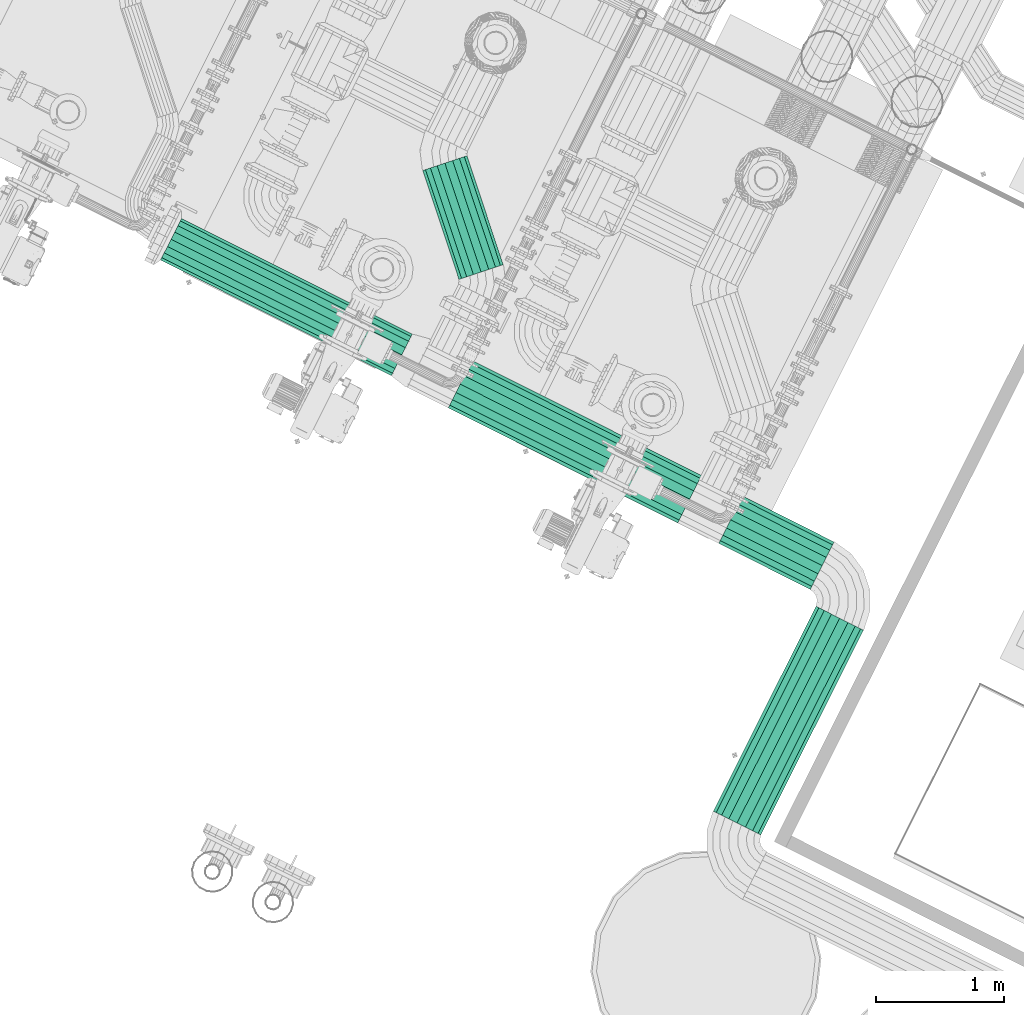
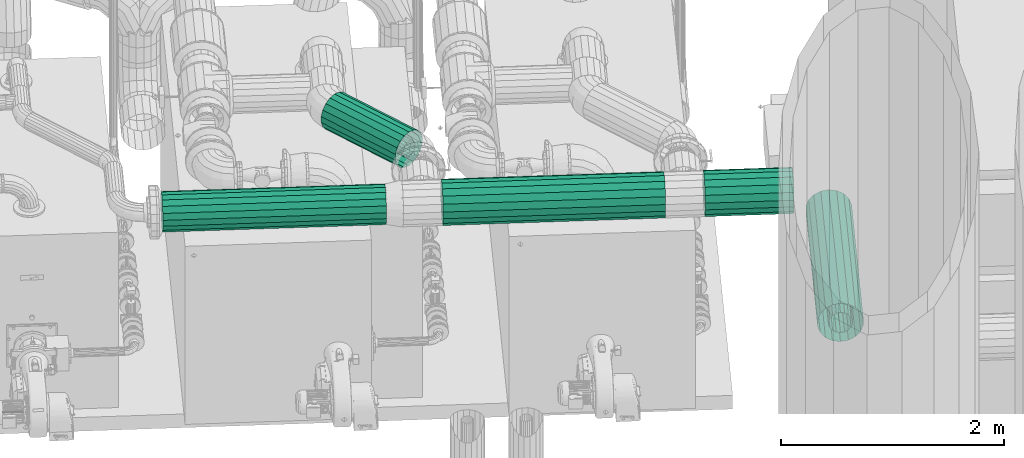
# One storey, part 5 of 206: 5 flow segments.
"""IFC2X3 building model written with IfcOpenShell, lengths in metres."""

from ifc_helpers import new_model, si_unit, derived_unit, direction, frame, origin, place, context, subcontext, project, spatial, face_set, surface_model, source, transform, mapped, material, type_object, type_shapes, element, save


model = new_model("IFC2X3")

# Units and contexts
model_context = context("Model", 3, precision=5.2338327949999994e-05, world=origin(), true_north=direction((0.0, 1.0)))
body_context = subcontext(model_context, "Body", "Model", "MODEL_VIEW")
ifc_project = project(units=[si_unit("LENGTHUNIT", "METRE"), si_unit("AREAUNIT", "SQUARE_METRE"), si_unit("VOLUMEUNIT", "CUBIC_METRE"), si_unit("MASSUNIT", "GRAM", prefix="KILO"), si_unit("PLANEANGLEUNIT", "RADIAN"), derived_unit("THERMALTRANSMITTANCEUNIT", [(si_unit("MASSUNIT", "GRAM", prefix="KILO"), 1), (si_unit("THERMODYNAMICTEMPERATUREUNIT", "KELVIN"), -1), (si_unit("TIMEUNIT", "SECOND"), -3)])], contexts=[model_context])

# Site, building, storey
site_placement = place(None, frame((0.0, 0.0, 0.0), z_axis=(0.0, 0.0, 1.0), x_axis=(0.8939966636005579, -0.4480736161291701, 0.0)))
site = spatial("IfcSite", under=ifc_project, at=site_placement, Name="Default", CompositionType="ELEMENT")
building_placement = place(site_placement, origin())
building = spatial("IfcBuilding", under=site, at=building_placement, CompositionType="ELEMENT")
storey_placement = place(building_placement, origin())
storey = spatial("IfcBuildingStorey", under=building, at=storey_placement, Name="Erdgeschoss", CompositionType="ELEMENT", Elevation=0.0)

# Flow segments
ifc_material = material(Name="IfcSurfaceStyle #9317")
distribution_element_type_1 = type_object("IfcDistributionElementType", Name="Stahlrohr nach DIN 2448 342082:Stahlrohr nach DIN 2448 342082", material=ifc_material)
shared_shape_1 = source(origin(), body_context, "Body", "SurfaceModel", [
    surface_model("IfcFaceBasedSurfaceModel", [(24.241894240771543, 6.354033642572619, 2.43815), (24.221543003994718, 6.33368240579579, 2.433075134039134), (24.85297490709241, 5.7022505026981, 2.4330751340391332), (24.873326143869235, 5.722601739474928, 2.438149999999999), (24.20364642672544, 6.315785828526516, 2.4184626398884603), (24.835078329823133, 5.684353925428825, 2.4184626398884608), (24.190363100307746, 6.302502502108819, 2.396075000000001), (24.821795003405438, 5.671070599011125, 2.3960750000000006), (24.183295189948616, 6.295434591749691, 2.368612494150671), (24.814727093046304, 5.6640026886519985, 2.36861249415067), (24.18329518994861, 6.295434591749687, 2.3393875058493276), (24.814727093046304, 5.6640026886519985, 2.339387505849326), (24.190363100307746, 6.302502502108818, 2.3119249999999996), (24.821795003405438, 5.671070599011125, 2.311925), (24.203646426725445, 6.315785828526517, 2.2895373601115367), (24.835078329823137, 5.684353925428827, 2.2895373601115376), (24.221543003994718, 6.33368240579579, 2.2749248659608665), (24.852974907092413, 5.7022505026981, 2.274924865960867), (24.241894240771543, 6.354033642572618, 2.26985), (24.873326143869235, 5.722601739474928, 2.26985), (24.262245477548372, 6.374384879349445, 2.2749248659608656), (24.893677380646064, 5.742952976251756, 2.2749248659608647), (24.28014205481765, 6.392281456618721, 2.289537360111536), (24.91157395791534, 5.760849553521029, 2.2895373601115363), (24.29342538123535, 6.405564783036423, 2.3119249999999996), (24.92485728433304, 5.774132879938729, 2.311925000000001), (24.30049329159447, 6.412632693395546, 2.339387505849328), (24.931925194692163, 5.781200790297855, 2.33938750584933), (24.300493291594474, 6.412632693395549, 2.368612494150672), (24.931925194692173, 5.781200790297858, 2.368612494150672), (24.293425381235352, 6.4055647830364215, 2.3960749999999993), (24.92485728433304, 5.77413287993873, 2.396074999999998), (24.28014205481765, 6.39228145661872, 2.4184626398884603), (24.91157395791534, 5.760849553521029, 2.4184626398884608), (24.262245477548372, 6.374384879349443, 2.433075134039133), (24.893677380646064, 5.742952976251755, 2.4330751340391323), (24.241894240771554, 6.354033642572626, 2.5381500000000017), (24.19735852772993, 6.309497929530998, 2.527044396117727), (24.828790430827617, 5.678066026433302, 2.5270443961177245), (24.87332614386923, 5.722601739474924, 2.5381499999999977), (24.15819447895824, 6.27033388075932, 2.495067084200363), (24.78962638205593, 5.638901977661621, 2.4950670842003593), (24.129125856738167, 6.241265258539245, 2.446075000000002), (24.760557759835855, 5.609833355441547, 2.4460750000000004), (24.113658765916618, 6.2257981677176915, 2.3859773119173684), (24.745090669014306, 5.594366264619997, 2.385977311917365), (24.113658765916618, 6.225798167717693, 2.3220226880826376), (24.745090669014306, 5.594366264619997, 2.3220226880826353), (24.129125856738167, 6.241265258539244, 2.261925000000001), (24.760557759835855, 5.609833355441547, 2.261925), (24.15819447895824, 6.270333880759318, 2.2129329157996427), (24.78962638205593, 5.638901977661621, 2.21293291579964), (24.19735852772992, 6.309497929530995, 2.180955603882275), (24.828790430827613, 5.678066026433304, 2.180955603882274), (24.241894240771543, 6.35403364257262, 2.16985), (24.873326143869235, 5.7226017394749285, 2.1698500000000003), (24.286429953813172, 6.398569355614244, 2.180955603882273), (24.91786185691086, 5.767137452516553, 2.1809556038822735), (24.325594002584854, 6.437733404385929, 2.2129329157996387), (24.957025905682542, 5.806301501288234, 2.2129329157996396), (24.354662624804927, 6.466802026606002, 2.261924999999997), (24.986094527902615, 5.835370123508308, 2.2619249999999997), (24.370129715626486, 6.482269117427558, 2.322022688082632), (25.001561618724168, 5.85083721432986, 2.3220226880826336), (24.370129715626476, 6.482269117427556, 2.385977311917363), (25.001561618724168, 5.850837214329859, 2.3859773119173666), (24.354662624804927, 6.466802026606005, 2.446074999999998), (24.986094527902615, 5.835370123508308, 2.446075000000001), (24.325594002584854, 6.437733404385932, 2.495067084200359), (24.957025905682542, 5.806301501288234, 2.495067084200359), (24.286429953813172, 6.398569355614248, 2.527044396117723), (24.91786185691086, 5.767137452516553, 2.527044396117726)], [face_set([[[0, 1, 2, 3]], [[1, 4, 5, 2]], [[4, 6, 7, 5]], [[6, 8, 9, 7]], [[8, 10, 11, 9]], [[10, 12, 13, 11]], [[12, 14, 15, 13]], [[14, 16, 17, 15]], [[16, 18, 19, 17]], [[18, 20, 21, 19]], [[20, 22, 23, 21]], [[22, 24, 25, 23]], [[24, 26, 27, 25]], [[26, 28, 29, 27]], [[28, 30, 31, 29]], [[30, 32, 33, 31]], [[32, 34, 35, 33]], [[34, 0, 3, 35]], [[36, 37, 38, 39]], [[37, 40, 41, 38]], [[40, 42, 43, 41]], [[42, 44, 45, 43]], [[44, 46, 47, 45]], [[46, 48, 49, 47]], [[48, 50, 51, 49]], [[50, 52, 53, 51]], [[52, 54, 55, 53]], [[54, 56, 57, 55]], [[56, 58, 59, 57]], [[58, 60, 61, 59]], [[60, 62, 63, 61]], [[62, 64, 65, 63]], [[64, 66, 67, 65]], [[66, 68, 69, 67]], [[68, 70, 71, 69]], [[70, 36, 39, 71]]])]),
])
type_shapes(distribution_element_type_1, [shared_shape_1])
flow_segment_1_placement = place(storey_placement, origin())
element("IfcFlowSegment", 1, at=flow_segment_1_placement, inside=storey, type_object=distribution_element_type_1, material=ifc_material, Name="Stahlrohr nach DIN 2448", ObjectType="Stahlrohr nach DIN 2448", context=body_context, shape_type="MappedRepresentation", body=[
    mapped(shared_shape_1, transform((0.0, 0.0, 0.0), scale=1.0)),
])
distribution_element_type_2 = type_object("IfcDistributionElementType", Name="Stahlrohr nach DIN 2448 342346:Stahlrohr nach DIN 2448 342346", material=ifc_material)
shared_shape_2 = source(origin(), body_context, "Body", "SurfaceModel", [
    surface_model("IfcFaceBasedSurfaceModel", [(28.576548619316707, 4.5643129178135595, 2.24445), (28.614016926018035, 4.5643129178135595, 2.2510566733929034), (28.614016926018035, 2.7818683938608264, 2.251056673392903), (28.576548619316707, 2.7818683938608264, 2.2444499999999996), (28.646966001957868, 4.5643129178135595, 2.270079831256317), (28.646966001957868, 2.7818683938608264, 2.270079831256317), (28.671421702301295, 4.5643129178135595, 2.2992250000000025), (28.671421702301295, 2.7818683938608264, 2.299225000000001), (28.684434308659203, 4.5643129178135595, 2.334976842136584), (28.684434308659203, 2.7818683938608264, 2.3349768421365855), (28.6844343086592, 4.5643129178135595, 2.373023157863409), (28.6844343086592, 2.7818683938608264, 2.373023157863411), (28.671421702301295, 4.5643129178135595, 2.4087750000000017), (28.671421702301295, 2.7818683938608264, 2.4087750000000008), (28.64696600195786, 4.5643129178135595, 2.437920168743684), (28.64696600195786, 2.7818683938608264, 2.4379201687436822), (28.61401692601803, 4.5643129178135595, 2.4569433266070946), (28.61401692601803, 2.7818683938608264, 2.4569433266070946), (28.576548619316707, 4.5643129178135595, 2.4635500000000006), (28.576548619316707, 2.7818683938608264, 2.4635499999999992), (28.539080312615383, 4.5643129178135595, 2.4569433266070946), (28.539080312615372, 2.7818683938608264, 2.456943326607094), (28.506131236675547, 4.5643129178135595, 2.4379201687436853), (28.506131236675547, 2.7818683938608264, 2.437920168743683), (28.48167553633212, 4.5643129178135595, 2.4087749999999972), (28.48167553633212, 2.7818683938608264, 2.4087749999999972), (28.468662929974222, 4.5643129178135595, 2.373023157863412), (28.468662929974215, 2.7818683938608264, 2.373023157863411), (28.468662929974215, 4.5643129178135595, 2.3349768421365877), (28.468662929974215, 2.7818683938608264, 2.3349768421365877), (28.481675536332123, 4.5643129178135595, 2.299225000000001), (28.481675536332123, 2.7818683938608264, 2.299225), (28.50613123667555, 4.5643129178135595, 2.270079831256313), (28.50613123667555, 2.7818683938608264, 2.270079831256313), (28.539080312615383, 4.5643129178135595, 2.2510566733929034), (28.539080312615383, 2.7818683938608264, 2.2510566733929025), (28.57654861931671, 4.5643129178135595, 2.1444499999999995), (28.6482189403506, 4.5643129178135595, 2.157087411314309), (28.648218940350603, 2.7818683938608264, 2.1570874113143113), (28.576548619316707, 2.7818683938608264, 2.1444500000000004), (28.711244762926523, 4.5643129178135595, 2.193475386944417), (28.71124476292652, 2.7818683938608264, 2.193475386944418), (28.75802424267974, 4.5643129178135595, 2.2492249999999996), (28.75802424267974, 2.7818683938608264, 2.249224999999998), (28.78291508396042, 4.5643129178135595, 2.3176120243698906), (28.78291508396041, 2.7818683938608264, 2.3176120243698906), (28.782915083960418, 4.5643129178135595, 2.390387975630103), (28.78291508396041, 2.7818683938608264, 2.3903879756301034), (28.75802424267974, 4.5643129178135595, 2.458774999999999), (28.75802424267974, 2.7818683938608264, 2.458775), (28.71124476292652, 4.5643129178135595, 2.514524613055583), (28.711244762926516, 2.7818683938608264, 2.5145246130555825), (28.6482189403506, 4.5643129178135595, 2.5509125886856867), (28.648218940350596, 2.7818683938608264, 2.5509125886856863), (28.576548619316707, 4.5643129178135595, 2.563549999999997), (28.576548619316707, 2.7818683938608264, 2.563549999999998), (28.504878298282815, 4.5643129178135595, 2.550912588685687), (28.504878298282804, 2.7818683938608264, 2.5509125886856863), (28.44185247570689, 4.5643129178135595, 2.5145246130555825), (28.44185247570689, 2.7818683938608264, 2.51452461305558), (28.39507299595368, 4.5643129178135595, 2.4587750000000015), (28.395072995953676, 2.7818683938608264, 2.4587750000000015), (28.370182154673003, 4.5643129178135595, 2.390387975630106), (28.370182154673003, 2.7818683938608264, 2.3903879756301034), (28.370182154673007, 4.5643129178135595, 2.317612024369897), (28.370182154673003, 2.7818683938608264, 2.3176120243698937), (28.39507299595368, 4.5643129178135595, 2.249225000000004), (28.39507299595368, 2.7818683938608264, 2.2492250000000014), (28.4418524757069, 4.5643129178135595, 2.193475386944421), (28.441852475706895, 2.7818683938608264, 2.1934753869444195), (28.50487829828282, 4.5643129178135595, 2.157087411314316), (28.504878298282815, 2.7818683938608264, 2.1570874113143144)], [face_set([[[0, 1, 2, 3]], [[1, 4, 5, 2]], [[4, 6, 7, 5]], [[6, 8, 9, 7]], [[8, 10, 11, 9]], [[10, 12, 13, 11]], [[12, 14, 15, 13]], [[14, 16, 17, 15]], [[16, 18, 19, 17]], [[18, 20, 21, 19]], [[20, 22, 23, 21]], [[22, 24, 25, 23]], [[24, 26, 27, 25]], [[26, 28, 29, 27]], [[28, 30, 31, 29]], [[30, 32, 33, 31]], [[32, 34, 35, 33]], [[34, 0, 3, 35]], [[36, 37, 38, 39]], [[37, 40, 41, 38]], [[40, 42, 43, 41]], [[42, 44, 45, 43]], [[44, 46, 47, 45]], [[46, 48, 49, 47]], [[48, 50, 51, 49]], [[50, 52, 53, 51]], [[52, 54, 55, 53]], [[54, 56, 57, 55]], [[56, 58, 59, 57]], [[58, 60, 61, 59]], [[60, 62, 63, 61]], [[62, 64, 65, 63]], [[64, 66, 67, 65]], [[66, 68, 69, 67]], [[68, 70, 71, 69]], [[70, 36, 39, 71]]])]),
])
type_shapes(distribution_element_type_2, [shared_shape_2])
flow_segment_2_placement = place(storey_placement, origin())
element("IfcFlowSegment", 2, at=flow_segment_2_placement, inside=storey, type_object=distribution_element_type_2, material=ifc_material, Name="Stahlrohr nach DIN 2448", ObjectType="Stahlrohr nach DIN 2448", context=body_context, shape_type="MappedRepresentation", body=[
    mapped(shared_shape_2, transform((0.0, 0.0, 0.0), scale=1.0)),
])
distribution_element_type_3 = type_object("IfcDistributionElementType", Name="Stahlrohr nach DIN 2448 343523:Stahlrohr nach DIN 2448 343523", material=ifc_material)
shared_shape_3 = source(origin(), body_context, "Body", "SurfaceModel", [
    surface_model("IfcFaceBasedSurfaceModel", [(25.11839869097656, 4.869312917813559, 2.24445), (25.11839869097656, 4.906781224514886, 2.2510566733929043), (27.11740023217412, 4.906781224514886, 2.2510566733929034), (27.11740023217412, 4.869312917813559, 2.2444499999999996), (25.11839869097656, 4.93973030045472, 2.270079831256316), (27.11740023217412, 4.939730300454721, 2.2700798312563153), (25.11839869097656, 4.964186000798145, 2.2992250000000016), (27.11740023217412, 4.964186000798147, 2.2992250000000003), (25.11839869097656, 4.977198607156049, 2.334976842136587), (27.11740023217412, 4.977198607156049, 2.334976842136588), (25.11839869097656, 4.977198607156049, 2.3730231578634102), (27.11740023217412, 4.97719860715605, 2.3730231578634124), (25.11839869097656, 4.964186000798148, 2.408775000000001), (27.11740023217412, 4.964186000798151, 2.4087750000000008), (25.11839869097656, 4.939730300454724, 2.4379201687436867), (27.11740023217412, 4.939730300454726, 2.4379201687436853), (25.11839869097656, 4.9067812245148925, 2.4569433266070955), (27.11740023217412, 4.906781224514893, 2.4569433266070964), (25.11839869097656, 4.869312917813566, 2.4635500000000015), (27.11740023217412, 4.869312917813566, 2.4635500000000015), (25.11839869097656, 4.831844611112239, 2.4569433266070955), (27.11740023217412, 4.831844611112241, 2.4569433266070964), (25.11839869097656, 4.798895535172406, 2.437920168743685), (27.11740023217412, 4.798895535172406, 2.437920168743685), (25.11839869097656, 4.77443983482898, 2.408775), (27.11740023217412, 4.77443983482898, 2.4087750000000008), (25.11839869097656, 4.761427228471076, 2.373023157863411), (27.11740023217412, 4.761427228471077, 2.3730231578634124), (25.11839869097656, 4.761427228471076, 2.3349768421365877), (27.11740023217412, 4.761427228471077, 2.334976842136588), (25.11839869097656, 4.774439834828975, 2.2992250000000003), (27.11740023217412, 4.774439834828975, 2.299225), (25.11839869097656, 4.7988955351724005, 2.2700798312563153), (27.11740023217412, 4.7988955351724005, 2.2700798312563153), (25.11839869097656, 4.831844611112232, 2.2510566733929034), (27.11740023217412, 4.831844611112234, 2.251056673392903), (25.11839869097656, 4.869312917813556, 2.144449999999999), (25.11839869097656, 4.940983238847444, 2.1570874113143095), (27.11740023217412, 4.9409832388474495, 2.1570874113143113), (27.11740023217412, 4.869312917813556, 2.14445), (25.11839869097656, 5.00400906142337, 2.193475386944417), (27.11740023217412, 5.004009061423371, 2.193475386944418), (25.11839869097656, 5.050788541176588, 2.2492250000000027), (27.11740023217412, 5.050788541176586, 2.249225), (25.11839869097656, 5.07567938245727, 2.317612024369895), (27.11740023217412, 5.07567938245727, 2.3176120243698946), (25.11839869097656, 5.07567938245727, 2.3903879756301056), (27.11740023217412, 5.075679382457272, 2.3903879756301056), (25.11839869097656, 5.050788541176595, 2.458775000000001), (27.11740023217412, 5.050788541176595, 2.4587750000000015), (25.11839869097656, 5.004009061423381, 2.5145246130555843), (27.11740023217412, 5.004009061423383, 2.514524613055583), (25.11839869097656, 4.940983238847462, 2.550912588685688), (27.11740023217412, 4.940983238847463, 2.550912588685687), (25.11839869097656, 4.869312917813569, 2.5635499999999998), (27.11740023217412, 4.869312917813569, 2.563550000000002), (25.11839869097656, 4.797642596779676, 2.5509125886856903), (27.11740023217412, 4.797642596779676, 2.550912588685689), (25.11839869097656, 4.7346167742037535, 2.5145246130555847), (27.11740023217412, 4.734616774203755, 2.5145246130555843), (25.11839869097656, 4.687837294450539, 2.4587749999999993), (27.11740023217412, 4.6878372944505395, 2.458775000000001), (25.11839869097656, 4.662946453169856, 2.390387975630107), (27.11740023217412, 4.662946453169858, 2.390387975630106), (25.11839869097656, 4.662946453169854, 2.317612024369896), (27.11740023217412, 4.662946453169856, 2.3176120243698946), (25.11839869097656, 4.6878372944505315, 2.249225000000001), (27.11740023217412, 4.687837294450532, 2.2492249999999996), (25.11839869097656, 4.734616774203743, 2.1934753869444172), (27.11740023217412, 4.734616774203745, 2.1934753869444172), (25.11839869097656, 4.797642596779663, 2.1570874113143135), (27.11740023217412, 4.797642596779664, 2.1570874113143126)], [face_set([[[0, 1, 2, 3]], [[1, 4, 5, 2]], [[4, 6, 7, 5]], [[6, 8, 9, 7]], [[8, 10, 11, 9]], [[10, 12, 13, 11]], [[12, 14, 15, 13]], [[14, 16, 17, 15]], [[16, 18, 19, 17]], [[18, 20, 21, 19]], [[20, 22, 23, 21]], [[22, 24, 25, 23]], [[24, 26, 27, 25]], [[26, 28, 29, 27]], [[28, 30, 31, 29]], [[30, 32, 33, 31]], [[32, 34, 35, 33]], [[34, 0, 3, 35]], [[36, 37, 38, 39]], [[37, 40, 41, 38]], [[40, 42, 43, 41]], [[42, 44, 45, 43]], [[44, 46, 47, 45]], [[46, 48, 49, 47]], [[48, 50, 51, 49]], [[50, 52, 53, 51]], [[52, 54, 55, 53]], [[54, 56, 57, 55]], [[56, 58, 59, 57]], [[58, 60, 61, 59]], [[60, 62, 63, 61]], [[62, 64, 65, 63]], [[64, 66, 67, 65]], [[66, 68, 69, 67]], [[68, 70, 71, 69]], [[70, 36, 39, 71]]])]),
])
type_shapes(distribution_element_type_3, [shared_shape_3])
flow_segment_3_placement = place(storey_placement, origin())
element("IfcFlowSegment", 3, at=flow_segment_3_placement, inside=storey, type_object=distribution_element_type_3, material=ifc_material, Name="Stahlrohr nach DIN 2448", ObjectType="Stahlrohr nach DIN 2448", context=body_context, shape_type="MappedRepresentation", body=[
    mapped(shared_shape_3, transform((0.0, 0.0, 0.0), scale=1.0)),
])
distribution_element_type_4 = type_object("IfcDistributionElementType", Name="Stahlrohr nach DIN 2448 344108:Stahlrohr nach DIN 2448 344108", material=ifc_material)
shared_shape_4 = source(origin(), body_context, "Body", "SurfaceModel", [
    surface_model("IfcFaceBasedSurfaceModel", [(27.47340023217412, 4.869312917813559, 2.463549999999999), (27.47340023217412, 4.831844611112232, 2.4569433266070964), (28.271548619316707, 4.831844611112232, 2.4569433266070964), (28.271548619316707, 4.869312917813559, 2.463549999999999), (27.47340023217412, 4.7988955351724, 2.4379201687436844), (28.271548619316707, 4.798895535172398, 2.4379201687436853), (27.47340023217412, 4.774439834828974, 2.4087750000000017), (28.271548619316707, 4.774439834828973, 2.408775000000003), (27.47340023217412, 4.761427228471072, 2.373023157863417), (28.271548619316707, 4.761427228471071, 2.373023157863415), (27.47340023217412, 4.761427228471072, 2.334976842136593), (28.271548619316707, 4.761427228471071, 2.3349768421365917), (27.47340023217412, 4.774439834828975, 2.299225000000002), (28.271548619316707, 4.774439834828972, 2.299225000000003), (27.47340023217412, 4.7988955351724, 2.270079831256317), (28.271548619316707, 4.798895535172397, 2.270079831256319), (27.47340023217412, 4.831844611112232, 2.251056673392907), (28.271548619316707, 4.831844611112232, 2.2510566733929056), (27.47340023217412, 4.869312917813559, 2.244449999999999), (28.271548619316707, 4.8693129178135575, 2.2444499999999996), (27.47340023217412, 4.906781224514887, 2.2510566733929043), (28.271548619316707, 4.906781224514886, 2.2510566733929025), (27.47340023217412, 4.939730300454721, 2.2700798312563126), (28.271548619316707, 4.93973030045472, 2.270079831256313), (27.47340023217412, 4.964186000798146, 2.299224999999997), (28.271548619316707, 4.9641860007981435, 2.299224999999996), (27.47340023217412, 4.977198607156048, 2.3349768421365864), (28.271548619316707, 4.977198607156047, 2.334976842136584), (27.47340023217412, 4.977198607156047, 2.373023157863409), (28.271548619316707, 4.977198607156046, 2.3730231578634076), (27.47340023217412, 4.964186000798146, 2.4087749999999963), (28.271548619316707, 4.964186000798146, 2.408774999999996), (27.47340023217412, 4.939730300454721, 2.437920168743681), (28.271548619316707, 4.939730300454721, 2.4379201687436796), (27.47340023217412, 4.906781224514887, 2.4569433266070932), (28.271548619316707, 4.906781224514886, 2.4569433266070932), (27.47340023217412, 4.869312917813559, 2.563549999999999), (27.47340023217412, 4.797642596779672, 2.550912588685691), (28.271548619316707, 4.797642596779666, 2.550912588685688), (28.271548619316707, 4.869312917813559, 2.5635499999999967), (27.47340023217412, 4.734616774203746, 2.514524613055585), (28.271548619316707, 4.734616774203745, 2.5145246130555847), (27.47340023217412, 4.68783729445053, 2.4587750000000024), (28.271548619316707, 4.687837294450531, 2.458775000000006), (27.47340023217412, 4.66294645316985, 2.390387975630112), (28.271548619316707, 4.66294645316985, 2.390387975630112), (27.47340023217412, 4.66294645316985, 2.317612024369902), (28.271548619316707, 4.66294645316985, 2.3176120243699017), (27.47340023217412, 4.68783729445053, 2.2492250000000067), (28.271548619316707, 4.687837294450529, 2.2492250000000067), (27.47340023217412, 4.734616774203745, 2.193475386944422), (28.271548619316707, 4.734616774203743, 2.1934753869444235), (27.47340023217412, 4.797642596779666, 2.1570874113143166), (28.271548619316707, 4.7976425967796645, 2.157087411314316), (27.47340023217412, 4.869312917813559, 2.1444500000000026), (28.271548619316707, 4.8693129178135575, 2.1444500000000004), (27.47340023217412, 4.940983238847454, 2.15708741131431), (28.271548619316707, 4.940983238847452, 2.15708741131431), (27.47340023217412, 5.004009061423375, 2.193475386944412), (28.271548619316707, 5.004009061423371, 2.1934753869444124), (27.47340023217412, 5.05078854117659, 2.2492249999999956), (28.271548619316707, 5.050788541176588, 2.2492249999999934), (27.47340023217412, 5.075679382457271, 2.317612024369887), (28.271548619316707, 5.075679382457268, 2.317612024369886), (27.47340023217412, 5.07567938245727, 2.390387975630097), (28.271548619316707, 5.075679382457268, 2.3903879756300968), (27.47340023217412, 5.0507885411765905, 2.458774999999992), (28.271548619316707, 5.0507885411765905, 2.458774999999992), (27.47340023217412, 5.004009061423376, 2.5145246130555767), (28.271548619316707, 5.004009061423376, 2.5145246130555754), (27.47340023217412, 4.940983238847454, 2.550912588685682), (28.271548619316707, 4.940983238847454, 2.5509125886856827)], [face_set([[[0, 1, 2, 3]], [[1, 4, 5, 2]], [[4, 6, 7, 5]], [[6, 8, 9, 7]], [[8, 10, 11, 9]], [[10, 12, 13, 11]], [[12, 14, 15, 13]], [[14, 16, 17, 15]], [[16, 18, 19, 17]], [[18, 20, 21, 19]], [[20, 22, 23, 21]], [[22, 24, 25, 23]], [[24, 26, 27, 25]], [[26, 28, 29, 27]], [[28, 30, 31, 29]], [[30, 32, 33, 31]], [[32, 34, 35, 33]], [[34, 0, 3, 35]], [[36, 37, 38, 39]], [[37, 40, 41, 38]], [[40, 42, 43, 41]], [[42, 44, 45, 43]], [[44, 46, 47, 45]], [[46, 48, 49, 47]], [[48, 50, 51, 49]], [[50, 52, 53, 51]], [[52, 54, 55, 53]], [[54, 56, 57, 55]], [[56, 58, 59, 57]], [[58, 60, 61, 59]], [[60, 62, 63, 61]], [[62, 64, 65, 63]], [[64, 66, 67, 65]], [[66, 68, 69, 67]], [[68, 70, 71, 69]], [[70, 36, 39, 71]]])]),
])
type_shapes(distribution_element_type_4, [shared_shape_4])
flow_segment_4_placement = place(storey_placement, origin())
element("IfcFlowSegment", 4, at=flow_segment_4_placement, inside=storey, type_object=distribution_element_type_4, material=ifc_material, Name="Stahlrohr nach DIN 2448", ObjectType="Stahlrohr nach DIN 2448", context=body_context, shape_type="MappedRepresentation", body=[
    mapped(shared_shape_4, transform((0.0, 0.0, 0.0), scale=1.0)),
])
distribution_element_type_5 = type_object("IfcDistributionElementType", Name="Stahlrohr nach DIN 2448 848673:Stahlrohr nach DIN 2448 848673", material=ifc_material)
shared_shape_5 = source(origin(), body_context, "Body", "SurfaceModel", [
    surface_model("IfcFaceBasedSurfaceModel", [(22.601524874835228, 4.869312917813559, 2.269850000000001), (22.601524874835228, 4.898093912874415, 2.274924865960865), (24.610398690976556, 4.898093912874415, 2.274924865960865), (24.610398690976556, 4.869312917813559, 2.269850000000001), (22.601524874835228, 4.923403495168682, 2.289537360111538), (24.610398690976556, 4.923403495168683, 2.289537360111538), (22.601524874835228, 4.942188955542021, 2.3119249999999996), (24.610398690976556, 4.942188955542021, 2.311925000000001), (22.601524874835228, 4.952184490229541, 2.33938750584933), (24.610398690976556, 4.952184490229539, 2.339387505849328), (22.601524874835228, 4.95218449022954, 2.368612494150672), (24.610398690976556, 4.95218449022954, 2.368612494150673), (22.601524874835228, 4.942188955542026, 2.3960749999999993), (24.610398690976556, 4.942188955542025, 2.396075), (22.601524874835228, 4.923403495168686, 2.41846263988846), (24.610398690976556, 4.923403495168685, 2.4184626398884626), (22.601524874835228, 4.898093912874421, 2.433075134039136), (24.610398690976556, 4.898093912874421, 2.433075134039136), (22.601524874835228, 4.8693129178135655, 2.4381500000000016), (24.610398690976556, 4.8693129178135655, 2.4381500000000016), (22.601524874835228, 4.840531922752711, 2.433075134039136), (24.610398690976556, 4.840531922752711, 2.433075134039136), (22.601524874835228, 4.815222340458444, 2.418462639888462), (24.610398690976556, 4.815222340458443, 2.4184626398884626), (22.601524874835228, 4.796436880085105, 2.396075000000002), (24.610398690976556, 4.796436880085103, 2.396075), (22.601524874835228, 4.786441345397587, 2.3686124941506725), (24.610398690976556, 4.786441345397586, 2.368612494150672), (22.601524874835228, 4.786441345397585, 2.339387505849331), (24.610398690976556, 4.786441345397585, 2.3393875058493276), (22.601524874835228, 4.7964368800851, 2.3119250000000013), (24.610398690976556, 4.796436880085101, 2.3119250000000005), (22.601524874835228, 4.815222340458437, 2.289537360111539), (24.610398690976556, 4.815222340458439, 2.289537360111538), (22.601524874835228, 4.840531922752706, 2.2749248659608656), (24.610398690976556, 4.840531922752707, 2.274924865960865), (22.601524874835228, 4.869312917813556, 2.1698499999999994), (22.601524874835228, 4.932295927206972, 2.180955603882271), (24.610398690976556, 4.932295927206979, 2.1809556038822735), (24.610398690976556, 4.869312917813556, 2.169850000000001), (22.601524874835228, 4.987682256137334, 2.212932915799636), (24.610398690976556, 4.987682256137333, 2.2129329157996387), (22.601524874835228, 5.02879149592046, 2.2619249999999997), (24.610398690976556, 5.028791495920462, 2.261925), (22.601524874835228, 5.050665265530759, 2.3220226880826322), (24.610398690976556, 5.05066526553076, 2.3220226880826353), (22.601524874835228, 5.050665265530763, 2.385977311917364), (24.610398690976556, 5.050665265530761, 2.385977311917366), (22.601524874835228, 5.028791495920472, 2.4460750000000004), (24.610398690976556, 5.028791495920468, 2.4460750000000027), (22.601524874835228, 4.987682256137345, 2.49506708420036), (24.610398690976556, 4.987682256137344, 2.4950670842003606), (22.601524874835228, 4.932295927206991, 2.527044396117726), (24.610398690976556, 4.932295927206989, 2.527044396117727), (22.601524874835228, 4.869312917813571, 2.538150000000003), (24.610398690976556, 4.869312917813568, 2.5381500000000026), (22.601524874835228, 4.806329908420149, 2.527044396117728), (24.610398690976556, 4.806329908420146, 2.5270443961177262), (22.601524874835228, 4.750943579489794, 2.4950670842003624), (24.610398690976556, 4.750943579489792, 2.4950670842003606), (22.601524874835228, 4.7098343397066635, 2.4460750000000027), (24.610398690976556, 4.709834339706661, 2.4460750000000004), (22.601524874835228, 4.687960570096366, 2.385977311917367), (24.610398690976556, 4.687960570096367, 2.3859773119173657), (22.601524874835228, 4.687960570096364, 2.322022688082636), (24.610398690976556, 4.687960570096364, 2.3220226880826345), (22.601524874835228, 4.7098343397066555, 2.2619250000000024), (24.610398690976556, 4.709834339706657, 2.2619249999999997), (22.601524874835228, 4.750943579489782, 2.2129329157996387), (24.610398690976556, 4.750943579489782, 2.2129329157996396), (22.601524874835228, 4.8063299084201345, 2.180955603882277), (24.610398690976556, 4.806329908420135, 2.1809556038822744)], [face_set([[[0, 1, 2, 3]], [[1, 4, 5, 2]], [[4, 6, 7, 5]], [[6, 8, 9, 7]], [[8, 10, 11, 9]], [[10, 12, 13, 11]], [[12, 14, 15, 13]], [[14, 16, 17, 15]], [[16, 18, 19, 17]], [[18, 20, 21, 19]], [[20, 22, 23, 21]], [[22, 24, 25, 23]], [[24, 26, 27, 25]], [[26, 28, 29, 27]], [[28, 30, 31, 29]], [[30, 32, 33, 31]], [[32, 34, 35, 33]], [[34, 0, 3, 35]], [[36, 37, 38, 39]], [[37, 40, 41, 38]], [[40, 42, 43, 41]], [[42, 44, 45, 43]], [[44, 46, 47, 45]], [[46, 48, 49, 47]], [[48, 50, 51, 49]], [[50, 52, 53, 51]], [[52, 54, 55, 53]], [[54, 56, 57, 55]], [[56, 58, 59, 57]], [[58, 60, 61, 59]], [[60, 62, 63, 61]], [[62, 64, 65, 63]], [[64, 66, 67, 65]], [[66, 68, 69, 67]], [[68, 70, 71, 69]], [[70, 36, 39, 71]]])]),
])
type_shapes(distribution_element_type_5, [shared_shape_5])
flow_segment_5_placement = place(storey_placement, origin())
element("IfcFlowSegment", 5, at=flow_segment_5_placement, inside=storey, type_object=distribution_element_type_5, material=ifc_material, Name="Stahlrohr nach DIN 2448", ObjectType="Stahlrohr nach DIN 2448", context=body_context, shape_type="MappedRepresentation", body=[
    mapped(shared_shape_5, transform((0.0, 0.0, 0.0), scale=1.0)),
])

save(model, "model.ifc")
